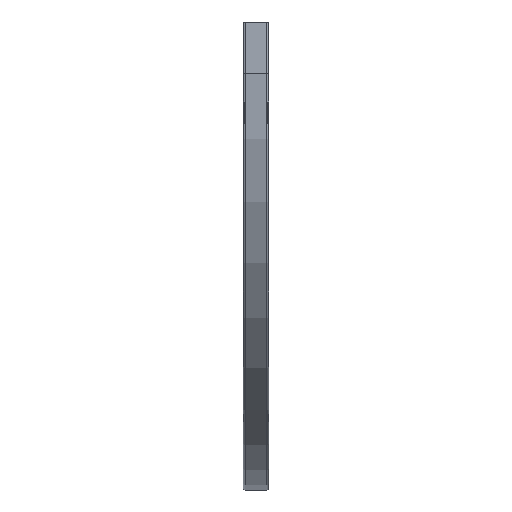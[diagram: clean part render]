
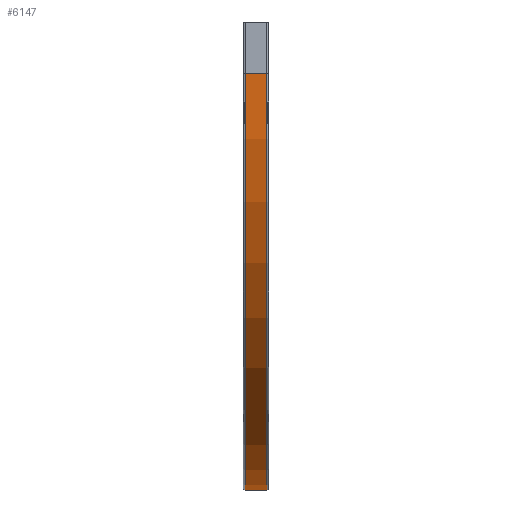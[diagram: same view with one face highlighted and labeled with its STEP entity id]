
A CAD part, left-side view. The second image highlights one B-rep face of the part: STEP entity #6147.
In plain terms, the highlighted cylindrical face has radius 614.362 mm (diameter 1228.72 mm), a partial arc.
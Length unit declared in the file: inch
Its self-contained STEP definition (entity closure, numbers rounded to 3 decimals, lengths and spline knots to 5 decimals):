
#32 = VERTEX_POINT ( 'NONE', #2612 ) ;
#39 = CIRCLE ( 'NONE', #870, 24.1875 ) ;
#870 = AXIS2_PLACEMENT_3D ( 'NONE', #4720, #6173, #2125 ) ;
#1006 = LINE ( 'NONE', #1985, #1549 ) ;
#1289 = CIRCLE ( 'NONE', #1389, 24.1875 ) ;
#1389 = AXIS2_PLACEMENT_3D ( 'NONE', #6478, #2869, #3912 ) ;
#1549 = VECTOR ( 'NONE', #5009, 39.37008 ) ;
#1573 = CARTESIAN_POINT ( 'NONE',  ( 0., -0.635, -24.1875 ) ) ;
#1659 = ORIENTED_EDGE ( 'NONE', *, *, #5827, .F. ) ;
#1719 = VERTEX_POINT ( 'NONE', #1573 ) ;
#1726 = FACE_OUTER_BOUND ( 'NONE', #3654, .T. ) ;
#1757 = CARTESIAN_POINT ( 'NONE',  ( 0., 0., 0. ) ) ;
#1815 = VERTEX_POINT ( 'NONE', #4134 ) ;
#1985 = CARTESIAN_POINT ( 'NONE',  ( 0., 0.635, -24.1875 ) ) ;
#2026 = CARTESIAN_POINT ( 'NONE',  ( -24.1875, 0.635, 0. ) ) ;
#2125 = DIRECTION ( 'NONE',  ( 0., 0., -1. ) ) ;
#2310 = CYLINDRICAL_SURFACE ( 'NONE', #3845, 24.1875 ) ;
#2612 = CARTESIAN_POINT ( 'NONE',  ( -24.1875, -0.635, 0. ) ) ;
#2869 = DIRECTION ( 'NONE',  ( 0., 1., 0. ) ) ;
#3654 = EDGE_LOOP ( 'NONE', ( #3760, #1659, #5812, #5352 ) ) ;
#3760 = ORIENTED_EDGE ( 'NONE', *, *, #4612, .F. ) ;
#3845 = AXIS2_PLACEMENT_3D ( 'NONE', #1757, #4782, #6267 ) ;
#3912 = DIRECTION ( 'NONE',  ( 0., 0., -1. ) ) ;
#4017 = EDGE_CURVE ( 'NONE', #1719, #32, #39, .T. ) ;
#4134 = CARTESIAN_POINT ( 'NONE',  ( 0., 0.635, -24.1875 ) ) ;
#4612 = EDGE_CURVE ( 'NONE', #1815, #5524, #1289, .T. ) ;
#4720 = CARTESIAN_POINT ( 'NONE',  ( 0., -0.635, 0. ) ) ;
#4768 = LINE ( 'NONE', #6406, #5461 ) ;
#4782 = DIRECTION ( 'NONE',  ( 0., 1., 0. ) ) ;
#4857 = DIRECTION ( 'NONE',  ( 0., 1., 0. ) ) ;
#5009 = DIRECTION ( 'NONE',  ( 0., 1., 0. ) ) ;
#5352 = ORIENTED_EDGE ( 'NONE', *, *, #5358, .T. ) ;
#5358 = EDGE_CURVE ( 'NONE', #32, #5524, #4768, .T. ) ;
#5461 = VECTOR ( 'NONE', #4857, 39.37008 ) ;
#5524 = VERTEX_POINT ( 'NONE', #2026 ) ;
#5812 = ORIENTED_EDGE ( 'NONE', *, *, #4017, .T. ) ;
#5827 = EDGE_CURVE ( 'NONE', #1719, #1815, #1006, .T. ) ;
#6147 = ADVANCED_FACE ( 'NONE', ( #1726 ), #2310, .T. ) ;
#6173 = DIRECTION ( 'NONE',  ( 0., 1., 0. ) ) ;
#6267 = DIRECTION ( 'NONE',  ( 0., 0., 1. ) ) ;
#6406 = CARTESIAN_POINT ( 'NONE',  ( -24.1875, 0.635, 0. ) ) ;
#6478 = CARTESIAN_POINT ( 'NONE',  ( 0., 0.635, 0. ) ) ;
